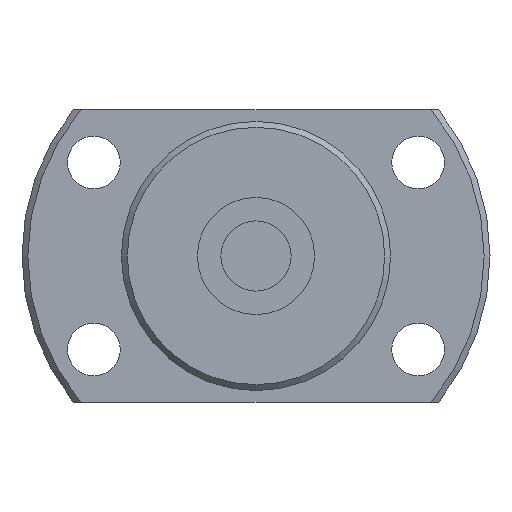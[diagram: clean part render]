
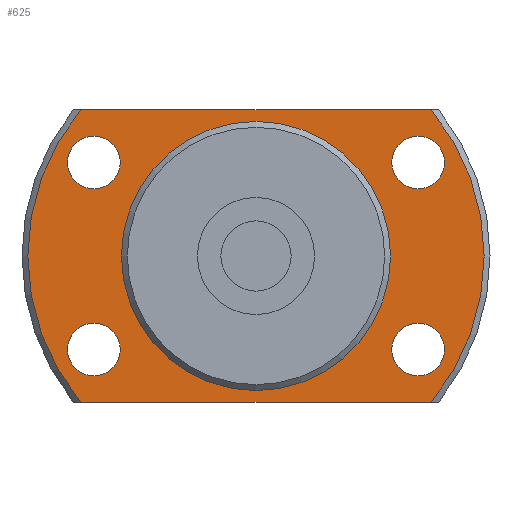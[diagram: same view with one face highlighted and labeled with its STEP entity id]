
A CAD part, left-side view. The second image highlights one B-rep face of the part: STEP entity #625.
In plain terms, the highlighted planar face has unit normal (-1, 0, 0).
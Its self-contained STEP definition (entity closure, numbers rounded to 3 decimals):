
#75=LINE('',#1102,#93);
#76=LINE('',#1106,#94);
#93=VECTOR('',#910,1000.);
#94=VECTOR('',#913,1000.);
#185=ORIENTED_EDGE('',*,*,#290,.T.);
#186=ORIENTED_EDGE('',*,*,#291,.T.);
#187=ORIENTED_EDGE('',*,*,#292,.T.);
#188=ORIENTED_EDGE('',*,*,#293,.T.);
#189=ORIENTED_EDGE('',*,*,#275,.F.);
#190=ORIENTED_EDGE('',*,*,#294,.F.);
#191=ORIENTED_EDGE('',*,*,#295,.F.);
#192=ORIENTED_EDGE('',*,*,#296,.F.);
#193=ORIENTED_EDGE('',*,*,#289,.T.);
#275=EDGE_CURVE('',#340,#341,#392,.T.);
#289=EDGE_CURVE('',#353,#353,#401,.T.);
#290=EDGE_CURVE('',#354,#354,#402,.T.);
#291=EDGE_CURVE('',#355,#355,#403,.T.);
#292=EDGE_CURVE('',#356,#356,#404,.T.);
#293=EDGE_CURVE('',#357,#357,#405,.T.);
#294=EDGE_CURVE('',#358,#340,#75,.T.);
#295=EDGE_CURVE('',#359,#358,#406,.T.);
#296=EDGE_CURVE('',#341,#359,#76,.T.);
#340=VERTEX_POINT('',#1048);
#341=VERTEX_POINT('',#1050);
#353=VERTEX_POINT('',#1092);
#354=VERTEX_POINT('',#1095);
#355=VERTEX_POINT('',#1097);
#356=VERTEX_POINT('',#1099);
#357=VERTEX_POINT('',#1101);
#358=VERTEX_POINT('',#1103);
#359=VERTEX_POINT('',#1105);
#392=CIRCLE('',#712,19.5);
#401=CIRCLE('',#728,11.35);
#402=CIRCLE('',#730,2.25);
#403=CIRCLE('',#731,2.25);
#404=CIRCLE('',#732,2.25);
#405=CIRCLE('',#733,2.25);
#406=CIRCLE('',#734,19.5);
#467=EDGE_LOOP('',(#185));
#468=EDGE_LOOP('',(#186));
#469=EDGE_LOOP('',(#187));
#470=EDGE_LOOP('',(#188));
#471=EDGE_LOOP('',(#189,#190,#191,#192));
#472=EDGE_LOOP('',(#193));
#547=FACE_BOUND('',#467,.T.);
#548=FACE_BOUND('',#468,.T.);
#549=FACE_BOUND('',#469,.T.);
#550=FACE_BOUND('',#470,.T.);
#551=FACE_BOUND('',#471,.T.);
#552=FACE_BOUND('',#472,.T.);
#589=PLANE('',#729);
#625=ADVANCED_FACE('',(#547,#548,#549,#550,#551,#552),#589,.F.);
#712=AXIS2_PLACEMENT_3D('',#1049,#864,#865);
#728=AXIS2_PLACEMENT_3D('',#1091,#898,#899);
#729=AXIS2_PLACEMENT_3D('',#1093,#900,#901);
#730=AXIS2_PLACEMENT_3D('',#1094,#902,#903);
#731=AXIS2_PLACEMENT_3D('',#1096,#904,#905);
#732=AXIS2_PLACEMENT_3D('',#1098,#906,#907);
#733=AXIS2_PLACEMENT_3D('',#1100,#908,#909);
#734=AXIS2_PLACEMENT_3D('',#1104,#911,#912);
#864=DIRECTION('',(1.,0.,0.));
#865=DIRECTION('',(0.,0.,-1.));
#898=DIRECTION('',(1.,0.,0.));
#899=DIRECTION('',(0.,0.,-1.));
#900=DIRECTION('',(1.,0.,0.));
#901=DIRECTION('',(0.,0.,-1.));
#902=DIRECTION('',(1.,0.,0.));
#903=DIRECTION('',(0.,0.,-1.));
#904=DIRECTION('',(1.,0.,0.));
#905=DIRECTION('',(0.,0.,-1.));
#906=DIRECTION('',(1.,0.,0.));
#907=DIRECTION('',(0.,0.,-1.));
#908=DIRECTION('',(1.,0.,0.));
#909=DIRECTION('',(0.,0.,-1.));
#910=DIRECTION('',(0.,1.,0.));
#911=DIRECTION('',(1.,0.,0.));
#912=DIRECTION('',(0.,0.,-1.));
#913=DIRECTION('',(0.,-1.,0.));
#1048=CARTESIAN_POINT('',(21.,14.967,-12.5));
#1049=CARTESIAN_POINT('',(21.,0.,0.));
#1050=CARTESIAN_POINT('',(21.,14.967,12.5));
#1091=CARTESIAN_POINT('',(21.,0.,0.));
#1092=CARTESIAN_POINT('',(21.,0.,-11.35));
#1093=CARTESIAN_POINT('',(21.,11.35,0.));
#1094=CARTESIAN_POINT('',(21.,-13.856,-8.));
#1095=CARTESIAN_POINT('',(21.,-13.856,-10.25));
#1096=CARTESIAN_POINT('',(21.,-13.856,8.));
#1097=CARTESIAN_POINT('',(21.,-13.856,5.75));
#1098=CARTESIAN_POINT('',(21.,13.856,-8.));
#1099=CARTESIAN_POINT('',(21.,13.856,-10.25));
#1100=CARTESIAN_POINT('',(21.,13.856,8.));
#1101=CARTESIAN_POINT('',(21.,13.856,5.75));
#1102=CARTESIAN_POINT('',(21.,-25.,-12.5));
#1103=CARTESIAN_POINT('',(21.,-14.967,-12.5));
#1104=CARTESIAN_POINT('',(21.,0.,0.));
#1105=CARTESIAN_POINT('',(21.,-14.967,12.5));
#1106=CARTESIAN_POINT('',(21.,25.,12.5));
